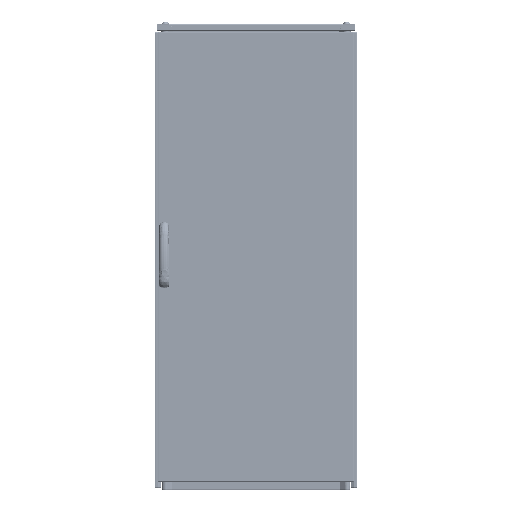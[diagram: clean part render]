
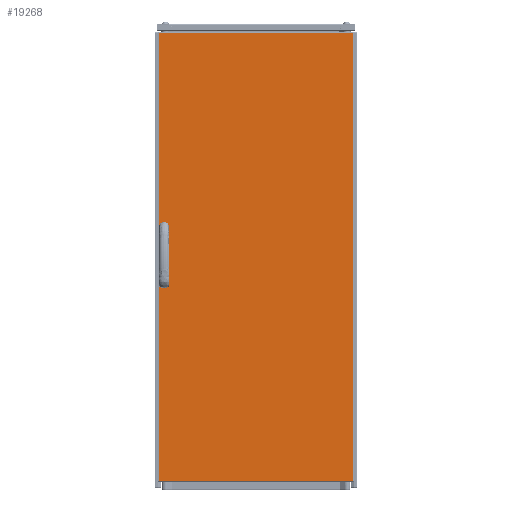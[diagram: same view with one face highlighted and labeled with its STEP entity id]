
A CAD part, top view. The second image highlights one B-rep face of the part: STEP entity #19268.
In plain terms, the highlighted planar face has unit normal (0, 0, 1).
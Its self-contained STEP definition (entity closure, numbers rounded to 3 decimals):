
#12074 = AXIS2_PLACEMENT_3D ( 'NONE', #93496, #199122, #96158 ) ;
#16999 = CIRCLE ( 'NONE', #203110, 9.5 ) ;
#17088 = CARTESIAN_POINT ( 'NONE',  ( 9.7, 647.75, 19. ) ) ;
#18107 = CARTESIAN_POINT ( 'NONE',  ( 9.7, 760.25, 19. ) ) ;
#19268 = ADVANCED_FACE ( 'NONE', ( #176131, #71811, #260161 ), #115168, .F. ) ;
#20307 = LINE ( 'NONE', #228994, #124200 ) ;
#20667 = CARTESIAN_POINT ( 'NONE',  ( 28.7, 712.25, 19. ) ) ;
#22386 = DIRECTION ( 'NONE',  ( 1., 0., 0. ) ) ;
#24801 = CARTESIAN_POINT ( 'NONE',  ( 3., 1357., 19. ) ) ;
#25064 = DIRECTION ( 'NONE',  ( 0., 0., 1. ) ) ;
#36395 = CARTESIAN_POINT ( 'NONE',  ( 9.7, 599.75, 19. ) ) ;
#38506 = VERTEX_POINT ( 'NONE', #247443 ) ;
#40095 = CARTESIAN_POINT ( 'NONE',  ( 19.2, 599.75, 19. ) ) ;
#42706 = LINE ( 'NONE', #105084, #248983 ) ;
#47700 = EDGE_CURVE ( 'NONE', #72059, #63845, #181080, .T. ) ;
#49298 = EDGE_LOOP ( 'NONE', ( #119768, #96660, #233030, #201019 ) ) ;
#49498 = AXIS2_PLACEMENT_3D ( 'NONE', #228380, #25064, #22386 ) ;
#51350 = VERTEX_POINT ( 'NONE', #214357 ) ;
#52055 = CARTESIAN_POINT ( 'NONE',  ( 9.7, 712.25, 19. ) ) ;
#56120 = DIRECTION ( 'NONE',  ( 0., 0., 1. ) ) ;
#58324 = EDGE_CURVE ( 'NONE', #113165, #212301, #42706, .T. ) ;
#58767 = EDGE_CURVE ( 'NONE', #201407, #259575, #218959, .T. ) ;
#60229 = CARTESIAN_POINT ( 'NONE',  ( 9.7, 647.75, 19. ) ) ;
#60561 = CARTESIAN_POINT ( 'NONE',  ( 28.7, 760.25, 19. ) ) ;
#61403 = ORIENTED_EDGE ( 'NONE', *, *, #148842, .F. ) ;
#62111 = EDGE_LOOP ( 'NONE', ( #161206, #141972, #196915, #265233 ) ) ;
#63745 = DIRECTION ( 'NONE',  ( 0., -1., 0. ) ) ;
#63845 = VERTEX_POINT ( 'NONE', #36395 ) ;
#64704 = EDGE_LOOP ( 'NONE', ( #161816, #251364, #183477, #61403 ) ) ;
#69534 = CARTESIAN_POINT ( 'NONE',  ( 592., 3., 19. ) ) ;
#70138 = CIRCLE ( 'NONE', #139402, 9.5 ) ;
#71811 = FACE_BOUND ( 'NONE', #49298, .T. ) ;
#72059 = VERTEX_POINT ( 'NONE', #60229 ) ;
#75122 = CARTESIAN_POINT ( 'NONE',  ( 19.2, 712.25, 19. ) ) ;
#79026 = DIRECTION ( 'NONE',  ( 1., 0., 0. ) ) ;
#79509 = EDGE_CURVE ( 'NONE', #243570, #38506, #261266, .T. ) ;
#80269 = VECTOR ( 'NONE', #194611, 1000. ) ;
#82126 = DIRECTION ( 'NONE',  ( 0., -1., 0. ) ) ;
#87492 = CARTESIAN_POINT ( 'NONE',  ( 28.7, 599.75, 19. ) ) ;
#88169 = LINE ( 'NONE', #126185, #265131 ) ;
#93496 = CARTESIAN_POINT ( 'NONE',  ( 0., 1360., 19. ) ) ;
#96158 = DIRECTION ( 'NONE',  ( -1., 0., 0. ) ) ;
#96660 = ORIENTED_EDGE ( 'NONE', *, *, #232454, .F. ) ;
#101920 = CIRCLE ( 'NONE', #227449, 9.5 ) ;
#103011 = DIRECTION ( 'NONE',  ( -1., 0., 0. ) ) ;
#105084 = CARTESIAN_POINT ( 'NONE',  ( 28.7, 647.75, 19. ) ) ;
#113165 = VERTEX_POINT ( 'NONE', #87492 ) ;
#113465 = EDGE_CURVE ( 'NONE', #169399, #51350, #88169, .T. ) ;
#115168 = PLANE ( 'NONE',  #12074 ) ;
#119768 = ORIENTED_EDGE ( 'NONE', *, *, #233410, .F. ) ;
#119824 = DIRECTION ( 'NONE',  ( 0., -1., 0. ) ) ;
#120262 = DIRECTION ( 'NONE',  ( 0., 1., 0. ) ) ;
#122825 = DIRECTION ( 'NONE',  ( 0., 0., 1. ) ) ;
#124200 = VECTOR ( 'NONE', #103011, 1000. ) ;
#126185 = CARTESIAN_POINT ( 'NONE',  ( 3., 1360., 19. ) ) ;
#127848 = CARTESIAN_POINT ( 'NONE',  ( 28.7, 647.75, 19. ) ) ;
#130729 = CARTESIAN_POINT ( 'NONE',  ( 592., 1357., 19. ) ) ;
#136587 = EDGE_CURVE ( 'NONE', #51350, #201407, #248363, .T. ) ;
#136907 = DIRECTION ( 'NONE',  ( 0., 0., 1. ) ) ;
#139402 = AXIS2_PLACEMENT_3D ( 'NONE', #180174, #136907, #261551 ) ;
#141972 = ORIENTED_EDGE ( 'NONE', *, *, #167066, .T. ) ;
#148842 = EDGE_CURVE ( 'NONE', #63845, #113165, #16999, .T. ) ;
#157775 = DIRECTION ( 'NONE',  ( 1., 0., 0. ) ) ;
#161206 = ORIENTED_EDGE ( 'NONE', *, *, #58767, .T. ) ;
#161816 = ORIENTED_EDGE ( 'NONE', *, *, #47700, .F. ) ;
#166733 = LINE ( 'NONE', #249418, #261907 ) ;
#167066 = EDGE_CURVE ( 'NONE', #259575, #169399, #20307, .T. ) ;
#169399 = VERTEX_POINT ( 'NONE', #24801 ) ;
#175059 = VECTOR ( 'NONE', #120262, 1000. ) ;
#176131 = FACE_BOUND ( 'NONE', #64704, .T. ) ;
#179642 = VECTOR ( 'NONE', #82126, 1000. ) ;
#180174 = CARTESIAN_POINT ( 'NONE',  ( 19.2, 647.75, 19. ) ) ;
#181080 = LINE ( 'NONE', #17088, #179642 ) ;
#182245 = EDGE_CURVE ( 'NONE', #212301, #72059, #70138, .T. ) ;
#183477 = ORIENTED_EDGE ( 'NONE', *, *, #58324, .F. ) ;
#184690 = EDGE_CURVE ( 'NONE', #189480, #243570, #101920, .T. ) ;
#189480 = VERTEX_POINT ( 'NONE', #52055 ) ;
#190155 = VECTOR ( 'NONE', #79026, 1000. ) ;
#194611 = DIRECTION ( 'NONE',  ( 0., 1., 0. ) ) ;
#196915 = ORIENTED_EDGE ( 'NONE', *, *, #113465, .T. ) ;
#199122 = DIRECTION ( 'NONE',  ( 0., 0., -1. ) ) ;
#201019 = ORIENTED_EDGE ( 'NONE', *, *, #184690, .F. ) ;
#201407 = VERTEX_POINT ( 'NONE', #69534 ) ;
#203110 = AXIS2_PLACEMENT_3D ( 'NONE', #40095, #122825, #205422 ) ;
#205422 = DIRECTION ( 'NONE',  ( 1., 0., 0. ) ) ;
#212301 = VERTEX_POINT ( 'NONE', #127848 ) ;
#214357 = CARTESIAN_POINT ( 'NONE',  ( 3., 3., 19. ) ) ;
#218959 = LINE ( 'NONE', #237956, #80269 ) ;
#223356 = VERTEX_POINT ( 'NONE', #18107 ) ;
#225693 = DIRECTION ( 'NONE',  ( 0., 1., 0. ) ) ;
#227449 = AXIS2_PLACEMENT_3D ( 'NONE', #75122, #56120, #157775 ) ;
#228380 = CARTESIAN_POINT ( 'NONE',  ( 19.2, 760.25, 19. ) ) ;
#228994 = CARTESIAN_POINT ( 'NONE',  ( 0., 1357., 19. ) ) ;
#232454 = EDGE_CURVE ( 'NONE', #38506, #223356, #261517, .T. ) ;
#233030 = ORIENTED_EDGE ( 'NONE', *, *, #79509, .F. ) ;
#233410 = EDGE_CURVE ( 'NONE', #223356, #189480, #166733, .T. ) ;
#237956 = CARTESIAN_POINT ( 'NONE',  ( 592., 1360., 19. ) ) ;
#243019 = CARTESIAN_POINT ( 'NONE',  ( 0., 3., 19. ) ) ;
#243570 = VERTEX_POINT ( 'NONE', #20667 ) ;
#247443 = CARTESIAN_POINT ( 'NONE',  ( 28.7, 760.25, 19. ) ) ;
#248363 = LINE ( 'NONE', #243019, #190155 ) ;
#248983 = VECTOR ( 'NONE', #225693, 1000. ) ;
#249418 = CARTESIAN_POINT ( 'NONE',  ( 9.7, 760.25, 19. ) ) ;
#251364 = ORIENTED_EDGE ( 'NONE', *, *, #182245, .F. ) ;
#259575 = VERTEX_POINT ( 'NONE', #130729 ) ;
#260161 = FACE_OUTER_BOUND ( 'NONE', #62111, .T. ) ;
#261266 = LINE ( 'NONE', #60561, #175059 ) ;
#261517 = CIRCLE ( 'NONE', #49498, 9.5 ) ;
#261551 = DIRECTION ( 'NONE',  ( 1., 0., 0. ) ) ;
#261907 = VECTOR ( 'NONE', #63745, 1000. ) ;
#265131 = VECTOR ( 'NONE', #119824, 1000. ) ;
#265233 = ORIENTED_EDGE ( 'NONE', *, *, #136587, .T. ) ;
